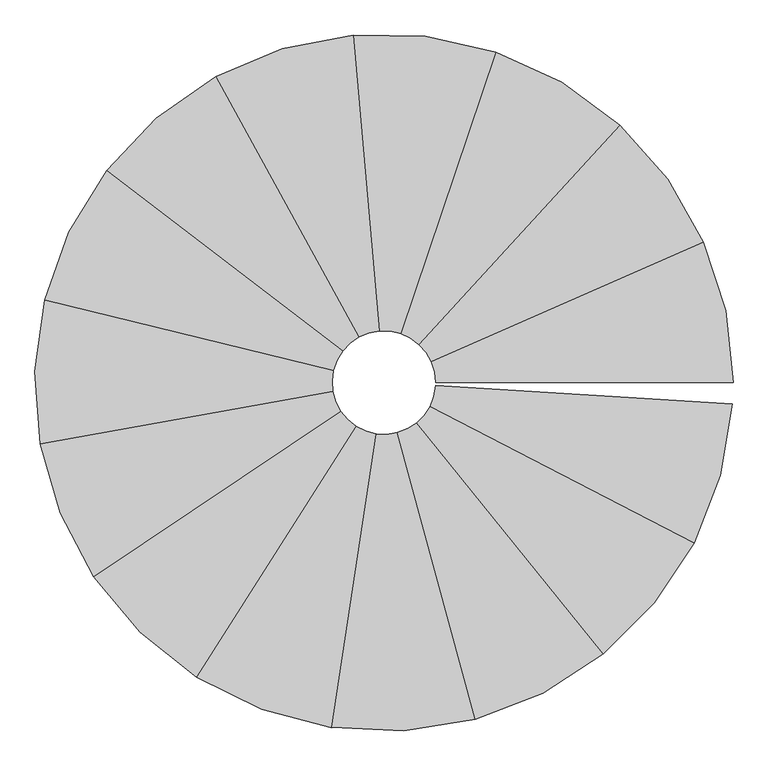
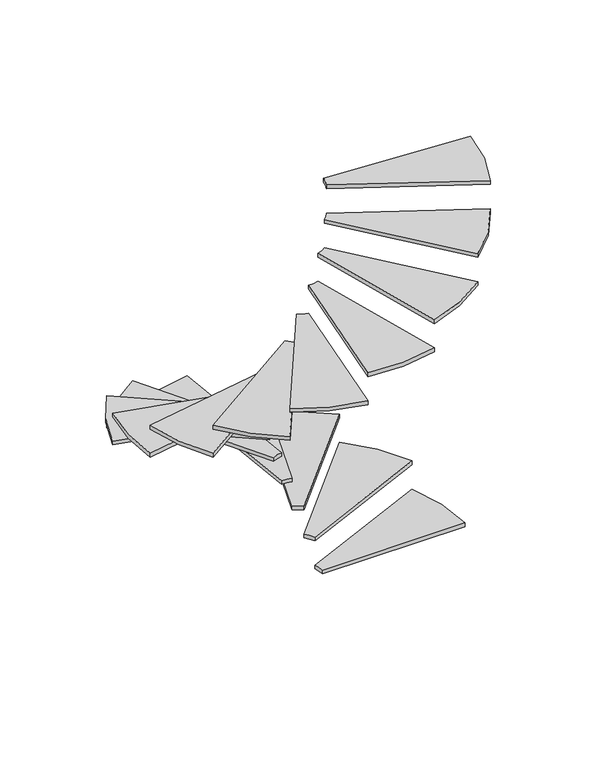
"""IFC4 building model written with IfcOpenShell, lengths in millimetres: stair flight geometry."""

from ifc_helpers import new_model, si_unit, point, frame, frame_2d, origin, place, context, project, spatial, polyline, circle_curve, trimmed, segment, composite_curve, outline, extrude, source, transform, mapped, element, save


def stair_flight_bf0e3606(model_context):
    return source(origin(), model_context, "Body", "SweptSolid", [
        extrude(outline(composite_curve([segment(polyline([(-16307.204916, -16858.5514158), (-15470.3207789, -16490.1056245)]), True, "CONTINUOUS"), segment(trimmed(circle_curve(frame_2d((-16453.3365602, -16922.8871906)), 1074.0669952), [point((-15470.3207789, -16490.1056245))], [point((-15379.269565, -16922.8871906))], False, "CARTESIAN"), True, "CONTINUOUS"), segment(polyline([(-15379.269565, -16922.8871906), (-16293.669565, -16922.8871906)]), True, "CONTINUOUS"), segment(trimmed(circle_curve(frame_2d((-16453.3365602, -16922.8871906)), 159.6669952), [point((-16293.669565, -16922.8871906))], [point((-16307.204916, -16858.5514158))], True, "CARTESIAN"), True, "CONTINUOUS")], self_intersect=False)), frame((0.0, 0.0, 165.1), z_axis=(0.0, 0.0, 1.0), x_axis=(1.0, 0.0, 0.0)), (0.0, 0.0, 1.0), 25.4),
        extrude(outline(composite_curve([segment(polyline([(-16345.5161211, -16805.1234344), (-15728.0371647, -16130.699904)]), True, "CONTINUOUS"), segment(trimmed(circle_curve(frame_2d((-16453.3365602, -16922.8871906)), 1074.0669952), [point((-15728.0371647, -16130.699904))], [point((-15470.3207789, -16490.1056245))], False, "CARTESIAN"), True, "CONTINUOUS"), segment(polyline([(-15470.3207789, -16490.1056245), (-16307.204916, -16858.5514158)]), True, "CONTINUOUS"), segment(trimmed(circle_curve(frame_2d((-16453.3365602, -16922.8871906)), 159.6669952), [point((-16307.204916, -16858.5514158))], [point((-16345.5161211, -16805.1234344))], True, "CARTESIAN"), True, "CONTINUOUS")], self_intersect=False)), frame((0.0, 0.0, 355.6), z_axis=(0.0, 0.0, 1.0), x_axis=(1.0, 0.0, 0.0)), (0.0, 0.0, 1.0), 25.4),
        extrude(outline(composite_curve([segment(polyline([(-16402.1077163, -16771.6616805), (-16108.7242603, -15905.6053845)]), True, "CONTINUOUS"), segment(trimmed(circle_curve(frame_2d((-16453.3365602, -16922.8871906)), 1074.0669952), [point((-16108.7242603, -15905.6053845))], [point((-15728.0371647, -16130.699904))], False, "CARTESIAN"), True, "CONTINUOUS"), segment(polyline([(-15728.0371647, -16130.699904), (-16345.5161211, -16805.1234344)]), True, "CONTINUOUS"), segment(trimmed(circle_curve(frame_2d((-16453.3365602, -16922.8871906)), 159.6669952), [point((-16345.5161211, -16805.1234344))], [point((-16402.1077163, -16771.6616805))], True, "CARTESIAN"), True, "CONTINUOUS")], self_intersect=False)), frame((0.0, 0.0, 546.1), z_axis=(0.0, 0.0, 1.0), x_axis=(1.0, 0.0, 0.0)), (0.0, 0.0, 1.0), 25.4),
        extrude(outline(composite_curve([segment(polyline([(-16467.3848935, -16763.8394188), (-16547.8385645, -15852.9856618)]), True, "CONTINUOUS"), segment(trimmed(circle_curve(frame_2d((-16453.3365602, -16922.8871906)), 1074.0669952), [point((-16547.8385645, -15852.9856618))], [point((-16108.7242603, -15905.6053845))], False, "CARTESIAN"), True, "CONTINUOUS"), segment(polyline([(-16108.7242603, -15905.6053845), (-16402.1077163, -16771.6616805)]), True, "CONTINUOUS"), segment(trimmed(circle_curve(frame_2d((-16453.3365602, -16922.8871906)), 159.6669952), [point((-16402.1077163, -16771.6616805))], [point((-16467.3848935, -16763.8394188))], True, "CARTESIAN"), True, "CONTINUOUS")], self_intersect=False)), frame((0.0, 0.0, 736.6), z_axis=(0.0, 0.0, 1.0), x_axis=(1.0, 0.0, 0.0)), (0.0, 0.0, 1.0), 25.4),
        extrude(outline(composite_curve([segment(polyline([(-16530.2802494, -16782.9828731), (-16970.9305494, -15981.7621338)]), True, "CONTINUOUS"), segment(trimmed(circle_curve(frame_2d((-16453.3365602, -16922.8871906)), 1074.0669952), [point((-16970.9305494, -15981.7621338))], [point((-16547.8385645, -15852.9856618))], False, "CARTESIAN"), True, "CONTINUOUS"), segment(polyline([(-16547.8385645, -15852.9856618), (-16467.3848935, -16763.8394188)]), True, "CONTINUOUS"), segment(trimmed(circle_curve(frame_2d((-16453.3365602, -16922.8871906)), 159.6669952), [point((-16467.3848935, -16763.8394188))], [point((-16530.2802494, -16782.9828731))], True, "CARTESIAN"), True, "CONTINUOUS")], self_intersect=False)), frame((0.0, 0.0, 927.1), z_axis=(0.0, 0.0, 1.0), x_axis=(1.0, 0.0, 0.0)), (0.0, 0.0, 1.0), 25.4),
        extrude(outline(composite_curve([segment(polyline([(-16580.1302062, -16825.8463708), (-17306.2671872, -16270.101425)]), True, "CONTINUOUS"), segment(trimmed(circle_curve(frame_2d((-16453.3365602, -16922.8871906)), 1074.0669952), [point((-17306.2671872, -16270.101425))], [point((-16970.9305494, -15981.7621338))], False, "CARTESIAN"), True, "CONTINUOUS"), segment(polyline([(-16970.9305494, -15981.7621338), (-16530.2802494, -16782.9828731)]), True, "CONTINUOUS"), segment(trimmed(circle_curve(frame_2d((-16453.3365602, -16922.8871906)), 159.6669952), [point((-16530.2802494, -16782.9828731))], [point((-16580.1302062, -16825.8463708))], True, "CARTESIAN"), True, "CONTINUOUS")], self_intersect=False)), frame((0.0, 0.0, 1117.6), z_axis=(0.0, 0.0, 1.0), x_axis=(1.0, 0.0, 0.0)), (0.0, 0.0, 1.0), 25.4),
        extrude(outline(composite_curve([segment(polyline([(-16608.4829651, -16885.1626307), (-17496.9939089, -16669.1171202)]), True, "CONTINUOUS"), segment(trimmed(circle_curve(frame_2d((-16453.3365602, -16922.8871906)), 1074.0669952), [point((-17496.9939089, -16669.1171202))], [point((-17306.2671872, -16270.101425))], False, "CARTESIAN"), True, "CONTINUOUS"), segment(polyline([(-17306.2671872, -16270.101425), (-16580.1302062, -16825.8463708)]), True, "CONTINUOUS"), segment(trimmed(circle_curve(frame_2d((-16453.3365602, -16922.8871906)), 159.6669952), [point((-16580.1302062, -16825.8463708))], [point((-16608.4829651, -16885.1626307))], True, "CARTESIAN"), True, "CONTINUOUS")], self_intersect=False)), frame((0.0, 0.0, 1308.1), z_axis=(0.0, 0.0, 1.0), x_axis=(1.0, 0.0, 0.0)), (0.0, 0.0, 1.0), 25.4),
        extrude(outline(composite_curve([segment(polyline([(-16610.5314645, -16950.874892), (-17510.773999, -17111.1582004)]), True, "CONTINUOUS"), segment(trimmed(circle_curve(frame_2d((-16453.3365602, -16922.8871906)), 1074.0669952), [point((-17510.773999, -17111.1582004))], [point((-17496.9939089, -16669.1171202))], False, "CARTESIAN"), True, "CONTINUOUS"), segment(polyline([(-17496.9939089, -16669.1171202), (-16608.4829651, -16885.1626307)]), True, "CONTINUOUS"), segment(trimmed(circle_curve(frame_2d((-16453.3365602, -16922.8871906)), 159.6669952), [point((-16608.4829651, -16885.1626307))], [point((-16610.5314645, -16950.874892))], True, "CARTESIAN"), True, "CONTINUOUS")], self_intersect=False)), frame((0.0, 0.0, 1498.6), z_axis=(0.0, 0.0, 1.0), x_axis=(1.0, 0.0, 0.0)), (0.0, 0.0, 1.0), 25.4),
        extrude(outline(composite_curve([segment(polyline([(-16585.928392, -17011.8419853), (-17345.2711154, -17521.2789179)]), True, "CONTINUOUS"), segment(trimmed(circle_curve(frame_2d((-16453.3365602, -16922.8871906)), 1074.0669952), [point((-17345.2711154, -17521.2789179))], [point((-17510.773999, -17111.1582004))], False, "CARTESIAN"), True, "CONTINUOUS"), segment(polyline([(-17510.773999, -17111.1582004), (-16610.5314645, -16950.874892)]), True, "CONTINUOUS"), segment(trimmed(circle_curve(frame_2d((-16453.3365602, -16922.8871906)), 159.6669952), [point((-16610.5314645, -16950.874892))], [point((-16585.928392, -17011.8419853))], True, "CARTESIAN"), True, "CONTINUOUS")], self_intersect=False)), frame((0.0, 0.0, 1689.1), z_axis=(0.0, 0.0, 1.0), x_axis=(1.0, 0.0, 0.0)), (0.0, 0.0, 1.0), 25.4),
        extrude(outline(composite_curve([segment(polyline([(-16538.8450696, -17057.7272594), (-17028.5454043, -17829.9454554)]), True, "CONTINUOUS"), segment(trimmed(circle_curve(frame_2d((-16453.3365602, -16922.8871906)), 1074.0669952), [point((-17028.5454043, -17829.9454554))], [point((-17345.2711154, -17521.2789179))], False, "CARTESIAN"), True, "CONTINUOUS"), segment(polyline([(-17345.2711154, -17521.2789179), (-16585.928392, -17011.8419853)]), True, "CONTINUOUS"), segment(trimmed(circle_curve(frame_2d((-16453.3365602, -16922.8871906)), 159.6669952), [point((-16585.928392, -17011.8419853))], [point((-16538.8450696, -17057.7272594))], True, "CARTESIAN"), True, "CONTINUOUS")], self_intersect=False)), frame((0.0, 0.0, 1879.6), z_axis=(0.0, 0.0, 1.0), x_axis=(1.0, 0.0, 0.0)), (0.0, 0.0, 1.0), 25.4),
        extrude(outline(composite_curve([segment(polyline([(-16477.2642278, -17080.7511069), (-16614.2960494, -17984.8250197)]), True, "CONTINUOUS"), segment(trimmed(circle_curve(frame_2d((-16453.3365602, -16922.8871906)), 1074.0669952), [point((-16614.2960494, -17984.8250197))], [point((-17028.5454043, -17829.9454554))], False, "CARTESIAN"), True, "CONTINUOUS"), segment(polyline([(-17028.5454043, -17829.9454554), (-16538.8450696, -17057.7272594)]), True, "CONTINUOUS"), segment(trimmed(circle_curve(frame_2d((-16453.3365602, -16922.8871906)), 159.6669952), [point((-16538.8450696, -17057.7272594))], [point((-16477.2642278, -17080.7511069))], True, "CARTESIAN"), True, "CONTINUOUS")], self_intersect=False)), frame((0.0, 0.0, 2070.1), z_axis=(0.0, 0.0, 1.0), x_axis=(1.0, 0.0, 0.0)), (0.0, 0.0, 1.0), 25.4),
        extrude(outline(composite_curve([segment(polyline([(-16411.6265754, -17077.009955), (-16172.7568571, -17959.6585927)]), True, "CONTINUOUS"), segment(trimmed(circle_curve(frame_2d((-16453.3365602, -16922.8871906)), 1074.0669952), [point((-16172.7568571, -17959.6585927))], [point((-16614.2960494, -17984.8250197))], False, "CARTESIAN"), True, "CONTINUOUS"), segment(polyline([(-16614.2960494, -17984.8250197), (-16477.2642278, -17080.7511069)]), True, "CONTINUOUS"), segment(trimmed(circle_curve(frame_2d((-16453.3365602, -16922.8871906)), 159.6669952), [point((-16477.2642278, -17080.7511069))], [point((-16411.6265754, -17077.009955))], True, "CARTESIAN"), True, "CONTINUOUS")], self_intersect=False)), frame((0.0, 0.0, 2260.6), z_axis=(0.0, 0.0, 1.0), x_axis=(1.0, 0.0, 0.0)), (0.0, 0.0, 1.0), 25.4),
        extrude(outline(composite_curve([segment(polyline([(-16353.0606322, -17047.1380964), (-15778.7884823, -17758.7130102)]), True, "CONTINUOUS"), segment(trimmed(circle_curve(frame_2d((-16453.3365602, -16922.8871906)), 1074.0669952), [point((-15778.7884823, -17758.7130102))], [point((-16172.7568571, -17959.6585927))], False, "CARTESIAN"), True, "CONTINUOUS"), segment(polyline([(-16172.7568571, -17959.6585927), (-16411.6265754, -17077.009955)]), True, "CONTINUOUS"), segment(trimmed(circle_curve(frame_2d((-16453.3365602, -16922.8871906)), 159.6669952), [point((-16411.6265754, -17077.009955))], [point((-16353.0606322, -17047.1380964))], True, "CARTESIAN"), True, "CONTINUOUS")], self_intersect=False)), frame((0.0, 0.0, 2451.1), z_axis=(0.0, 0.0, 1.0), x_axis=(1.0, 0.0, 0.0)), (0.0, 0.0, 1.0), 25.4),
        extrude(outline(composite_curve([segment(polyline([(-16311.4959469, -16996.2001482), (-15499.1861976, -17416.0575421)]), True, "CONTINUOUS"), segment(trimmed(circle_curve(frame_2d((-16453.3365602, -16922.8871906)), 1074.0669952), [point((-15499.1861976, -17416.0575421))], [point((-15778.7884823, -17758.7130102))], False, "CARTESIAN"), True, "CONTINUOUS"), segment(polyline([(-15778.7884823, -17758.7130102), (-16353.0606322, -17047.1380964)]), True, "CONTINUOUS"), segment(trimmed(circle_curve(frame_2d((-16453.3365602, -16922.8871906)), 159.6669952), [point((-16353.0606322, -17047.1380964))], [point((-16311.4959469, -16996.2001482))], True, "CARTESIAN"), True, "CONTINUOUS")], self_intersect=False)), frame((0.0, 0.0, 2641.6), z_axis=(0.0, 0.0, 1.0), x_axis=(1.0, 0.0, 0.0)), (0.0, 0.0, 1.0), 25.4),
        extrude(outline(composite_curve([segment(polyline([(-16293.9795939, -16932.8323724), (-15381.3551043, -16989.7876265)]), True, "CONTINUOUS"), segment(trimmed(circle_curve(frame_2d((-16453.3365602, -16922.8871906)), 1074.0669952), [point((-15381.3551043, -16989.7876265))], [point((-15499.1861976, -17416.0575421))], False, "CARTESIAN"), True, "CONTINUOUS"), segment(polyline([(-15499.1861976, -17416.0575421), (-16311.4959469, -16996.2001482)]), True, "CONTINUOUS"), segment(trimmed(circle_curve(frame_2d((-16453.3365602, -16922.8871906)), 159.6669952), [point((-16311.4959469, -16996.2001482))], [point((-16293.9795939, -16932.8323724))], True, "CARTESIAN"), True, "CONTINUOUS")], self_intersect=False)), frame((0.0, 0.0, 2832.1), z_axis=(0.0, 0.0, 1.0), x_axis=(1.0, 0.0, 0.0)), (0.0, 0.0, 1.0), 25.4),
    ])


if __name__ == "__main__":
    model = new_model("IFC4")
    model_context = context("Model", 3, world=origin())
    ifc_project = project(units=[si_unit("LENGTHUNIT", "METRE", prefix="MILLI")], contexts=[model_context])
    site = spatial("IfcSite", under=ifc_project)
    building = spatial("IfcBuilding", under=site)
    placement = place(None, origin())
    stair_flight_shape = stair_flight_bf0e3606(model_context)
    element("IfcStairFlight", 1, ObjectType="Unassigned Steps with 1\" Tread", at=placement, inside=building, context=model_context, shape_type="MappedRepresentation", body=[
        mapped(stair_flight_shape, transform((0.0, 0.0, 0.0), x_axis=(1.0, 0.0, 0.0), y_axis=(0.0, 1.0, 0.0), z_axis=(0.0, 0.0, 1.0))),
    ])
    save(model, "model.ifc")
